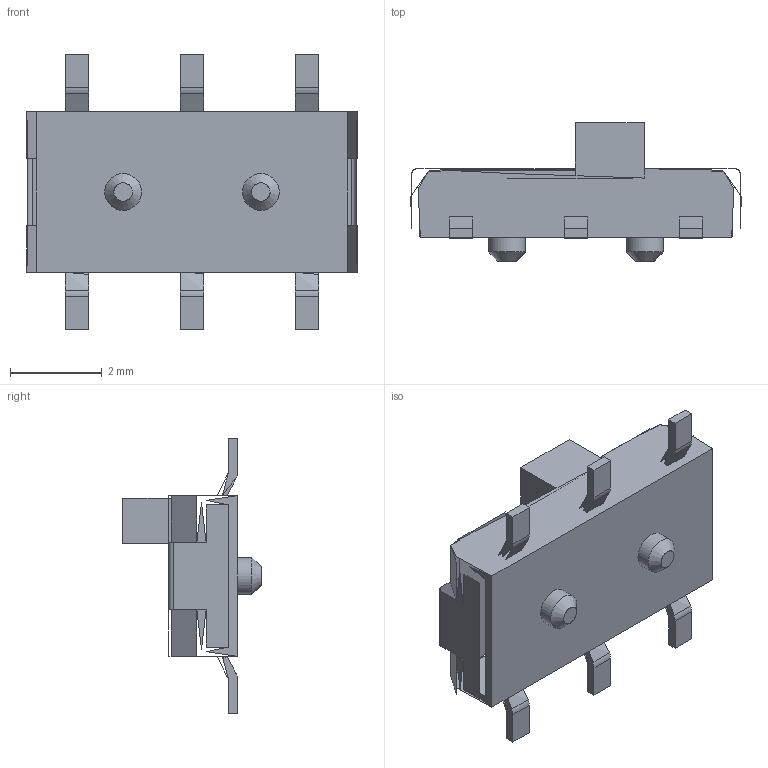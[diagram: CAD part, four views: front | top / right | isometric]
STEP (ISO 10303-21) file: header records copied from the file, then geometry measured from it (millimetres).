
FILE_DESCRIPTION(/* description */ ('STEP AP203'),/* implementation_level */ '2;1');
FILE_NAME(/* name */ 'AYZ0202AGRLC',/* time_stamp */ '2022-09-01T16:06:08+02:00',/* author */ ('License CC BY-ND 4.0'),/* organization */ ('CADENAS'),/* preprocessor_version */ 'ST-DEVELOPER v18.102',/* originating_system */ 'PARTsolutions',/* authorisation */ ' ');
FILE_SCHEMA (('CONFIG_CONTROL_DESIGN'));
Length unit declared in the file: inch
Products named in the file (10): AYZ0202AGRLC; AYZ0202AGRLC_PART9; AYZ0202AGRLC_PART8; AYZ0202AGRLC_PART7; AYZ0202AGRLC_PART6; AYZ0202AGRLC_PART5; AYZ0202AGRLC_PART4; AYZ0202AGRLC_PART3; AYZ0202AGRLC_PART2; AYZ0202AGRLC_PART1
Assembly tree (9 placements, depth 2):
  AYZ0202AGRLC
    AYZ0202AGRLC_PART9
    AYZ0202AGRLC_PART8
    AYZ0202AGRLC_PART7
    AYZ0202AGRLC_PART6
    AYZ0202AGRLC_PART5
    AYZ0202AGRLC_PART4
    AYZ0202AGRLC_PART3
    AYZ0202AGRLC_PART2
    AYZ0202AGRLC_PART1
Bounding box: 7.2 x 3.01 x 6 mm (x, y, z)
Surface area: 95.4 mm2 (no closed solid volume)
Topology: 0 solids, 28 shells, 82 faces, 301 edges, 244 vertices
Faces by surface type: plane 70, cylinder 10, cone 2
Full cylindrical faces by diameter (mm): 0.8 x2
Entity records: 3280 total; most frequent: CARTESIAN_POINT 975, ORIENTED_EDGE 393, DIRECTION 309, EDGE_CURVE 297, VERTEX_POINT 244, B_SPLINE_CURVE_WITH_KNOTS 192, AXIS2_PLACEMENT_3D 112, EDGE_LOOP 86
